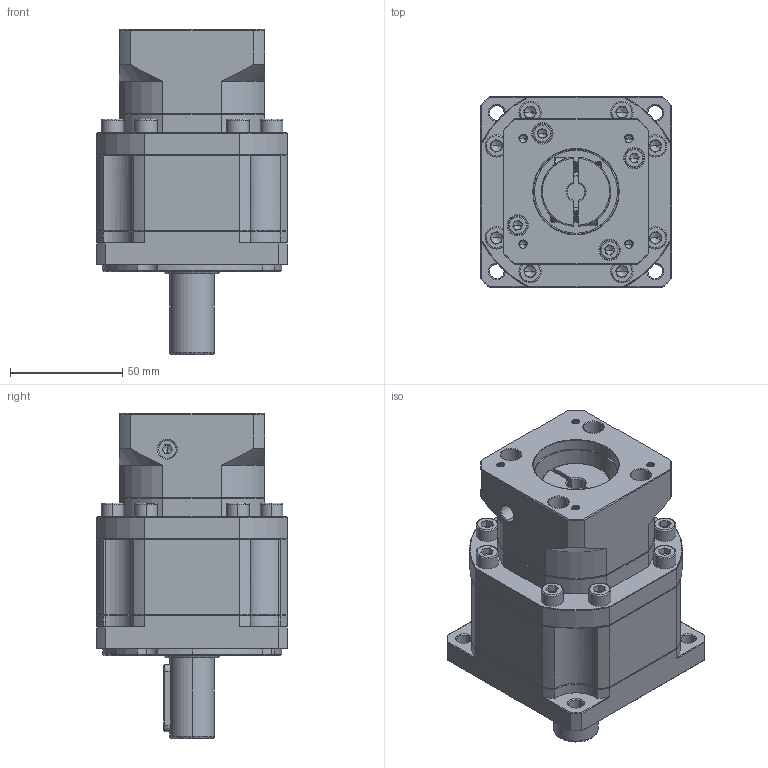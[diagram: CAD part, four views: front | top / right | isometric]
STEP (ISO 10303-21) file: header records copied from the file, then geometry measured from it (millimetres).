
FILE_DESCRIPTION (( 'STEP AP214' ), '1' );
FILE_NAME ('ZB90-D20-L2-8-38.1-47.14X47.14-M4.STEP', '2022-05-02T15:12:37', ( '' ), ( 'Microsoft' ), 'SwSTEP 2.0', 'SolidWorks 2016', '' );
FILE_SCHEMA (( 'AUTOMOTIVE_DESIGN' ));
Length unit declared in the file: millimetre
Products named in the file (1): ZB90-D20-L2-8-38.1-47.14X47.14-M4
Bounding box: 85 x 85 x 145 mm (x, y, z)
Volume: 547952.2 mm3; surface area: 76033.9 mm2
Topology: 6 solids, 6 shells, 2073 faces, 5432 edges, 3450 vertices
Faces by surface type: plane 1005, cylinder 394, bspline 328, cone 324, torus 22
Entity records: 107221 total; most frequent: CARTESIAN_POINT 36033, ORIENTED_EDGE 10772, DIRECTION 8916, EDGE_CURVE 5386, VERTEX_POINT 3450, LINE 3304, VECTOR 3304, AXIS2_PLACEMENT_3D 2806
